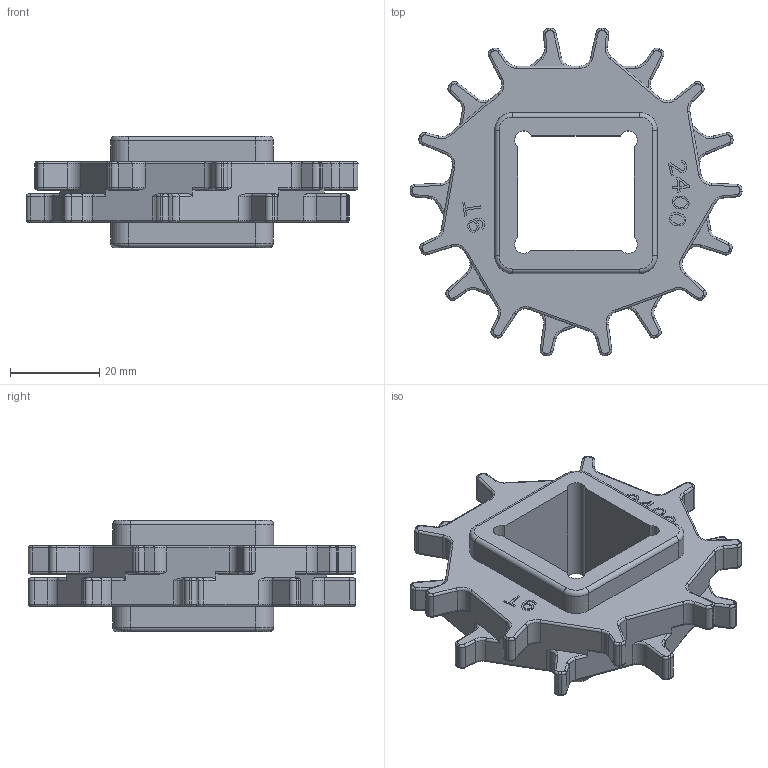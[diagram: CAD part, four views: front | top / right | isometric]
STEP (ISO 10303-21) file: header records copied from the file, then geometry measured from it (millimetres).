
FILE_DESCRIPTION(/* description */ (''),/* implementation_level */ '2;1');
FILE_NAME(/* name */ 'HS-2400B-9T-S25.4.stp',/* time_stamp */ '2025-09-17T17:36:25+08:00',/* author */ (''),/* organization */ (''),/* preprocessor_version */ 'ST-DEVELOPER v15',/* originating_system */ 'SIEMENS PLM Software NX 8.5',/* authorisation */ '');
FILE_SCHEMA (('AP203_CONFIGURATION_CONTROLLED_3D_DESIGN_OF_MECHANICAL_PARTS_AND_ASSEMBLIES_MIM_LF { 1 0 10303 403 2 1 2}'));
Length unit declared in the file: millimetre
Products named in the file (1): Admi23A89FF2lsvc
Bounding box: 74.21 x 73.2 x 24.88 mm (x, y, z)
Volume: 36808.7 mm3; surface area: 12882 mm2
Topology: 1 solids, 1 shells, 693 faces, 1751 edges, 1072 vertices
Faces by surface type: plane 287, cylinder 218, torus 188
Entity records: 20917 total; most frequent: DIRECTION 3789, CARTESIAN_POINT 3739, ORIENTED_EDGE 3502, EDGE_CURVE 1751, AXIS2_PLACEMENT_3D 1382, VERTEX_POINT 1072, LINE 1025, VECTOR 1025
